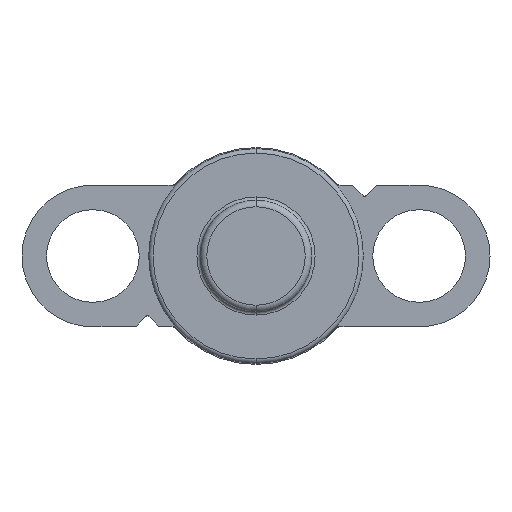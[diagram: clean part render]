
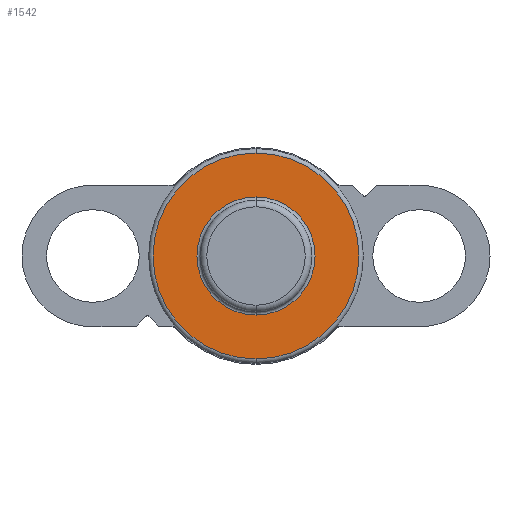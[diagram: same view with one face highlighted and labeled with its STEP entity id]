
A CAD part, front view. The second image highlights one B-rep face of the part: STEP entity #1542.
In plain terms, the highlighted planar face has unit normal (0, -1, 0).
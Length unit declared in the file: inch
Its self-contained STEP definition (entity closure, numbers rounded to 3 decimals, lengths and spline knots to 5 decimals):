
#15 = EDGE_CURVE ( 'NONE', #239, #747, #1720, .T. ) ;
#112 = AXIS2_PLACEMENT_3D ( 'NONE', #251, #712, #1874 ) ;
#125 = EDGE_CURVE ( 'NONE', #579, #1120, #136, .T. ) ;
#136 = CIRCLE ( 'NONE', #648, 0.27091 ) ;
#137 = EDGE_CURVE ( 'NONE', #1120, #579, #723, .T. ) ;
#149 = DIRECTION ( 'NONE',  ( 0., 1., 0. ) ) ;
#239 = VERTEX_POINT ( 'NONE', #1038 ) ;
#251 = CARTESIAN_POINT ( 'NONE',  ( 0., 0., 0. ) ) ;
#285 = DIRECTION ( 'NONE',  ( 0., 1., 0. ) ) ;
#376 = FACE_BOUND ( 'NONE', #1794, .T. ) ;
#467 = CARTESIAN_POINT ( 'NONE',  ( 0., 0., 0. ) ) ;
#568 = CARTESIAN_POINT ( 'NONE',  ( 0., 0., 0.27091 ) ) ;
#579 = VERTEX_POINT ( 'NONE', #568 ) ;
#648 = AXIS2_PLACEMENT_3D ( 'NONE', #1032, #149, #1484 ) ;
#681 = DIRECTION ( 'NONE',  ( 0., 1., 0. ) ) ;
#697 = FACE_OUTER_BOUND ( 'NONE', #1803, .T. ) ;
#712 = DIRECTION ( 'NONE',  ( 0., -1., 0. ) ) ;
#723 = CIRCLE ( 'NONE', #1623, 0.27091 ) ;
#737 = DIRECTION ( 'NONE',  ( 0., 0., 1. ) ) ;
#747 = VERTEX_POINT ( 'NONE', #1189 ) ;
#840 = CARTESIAN_POINT ( 'NONE',  ( -0.49213, 0., 0. ) ) ;
#948 = ORIENTED_EDGE ( 'NONE', *, *, #125, .T. ) ;
#1032 = CARTESIAN_POINT ( 'NONE',  ( 0., 0., 0. ) ) ;
#1038 = CARTESIAN_POINT ( 'NONE',  ( 0., 0., -0.47213 ) ) ;
#1072 = EDGE_CURVE ( 'NONE', #747, #239, #1190, .T. ) ;
#1120 = VERTEX_POINT ( 'NONE', #1902 ) ;
#1186 = DIRECTION ( 'NONE',  ( 0., 0., 1. ) ) ;
#1189 = CARTESIAN_POINT ( 'NONE',  ( 0., 0., 0.47213 ) ) ;
#1190 = CIRCLE ( 'NONE', #1231, 0.47213 ) ;
#1231 = AXIS2_PLACEMENT_3D ( 'NONE', #467, #1489, #737 ) ;
#1341 = CARTESIAN_POINT ( 'NONE',  ( 0., 0., 0. ) ) ;
#1484 = DIRECTION ( 'NONE',  ( 0., 0., 1. ) ) ;
#1489 = DIRECTION ( 'NONE',  ( 0., -1., 0. ) ) ;
#1542 = ADVANCED_FACE ( 'NONE', ( #376, #697 ), #1854, .F. ) ;
#1623 = AXIS2_PLACEMENT_3D ( 'NONE', #1341, #285, #1186 ) ;
#1680 = AXIS2_PLACEMENT_3D ( 'NONE', #840, #681, #1726 ) ;
#1720 = CIRCLE ( 'NONE', #112, 0.47213 ) ;
#1726 = DIRECTION ( 'NONE',  ( 0., 0., 1. ) ) ;
#1744 = ORIENTED_EDGE ( 'NONE', *, *, #1072, .T. ) ;
#1758 = ORIENTED_EDGE ( 'NONE', *, *, #137, .T. ) ;
#1791 = ORIENTED_EDGE ( 'NONE', *, *, #15, .T. ) ;
#1794 = EDGE_LOOP ( 'NONE', ( #948, #1758 ) ) ;
#1803 = EDGE_LOOP ( 'NONE', ( #1744, #1791 ) ) ;
#1854 = PLANE ( 'NONE',  #1680 ) ;
#1874 = DIRECTION ( 'NONE',  ( 0., 0., 1. ) ) ;
#1902 = CARTESIAN_POINT ( 'NONE',  ( 0., 0., -0.27091 ) ) ;
